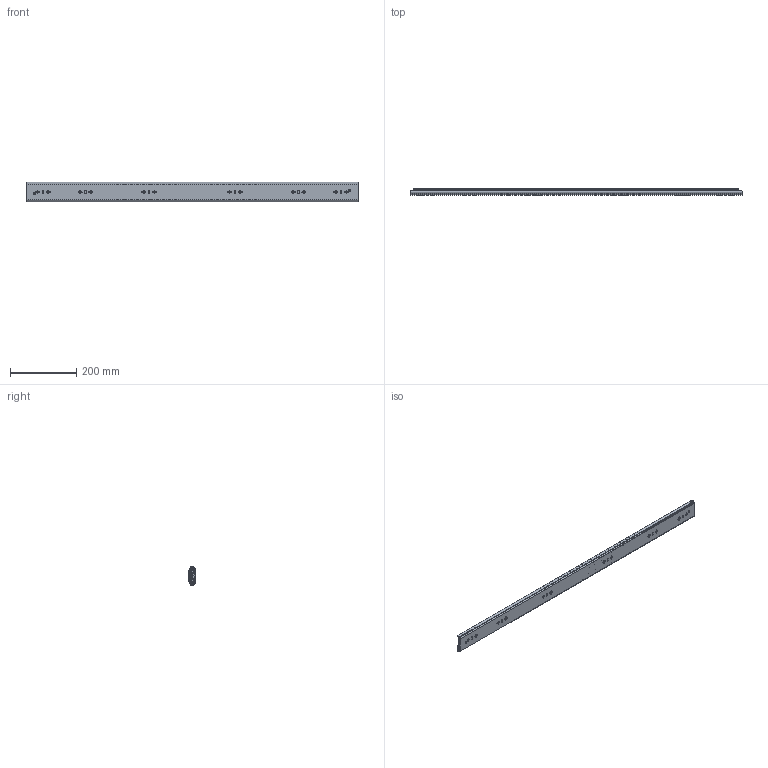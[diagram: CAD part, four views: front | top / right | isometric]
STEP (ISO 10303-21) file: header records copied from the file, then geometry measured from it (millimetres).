
FILE_DESCRIPTION((''),'2;1');
FILE_NAME('1057-C-40_ASM','2025-10-24T',('蔽翩'),(''),'CREO PARAMETRIC BY PTC INC, 2018220','CREO PARAMETRIC BY PTC INC, 2018220','');
FILE_SCHEMA(('CONFIG_CONTROL_DESIGN'));
Products named in the file (20): KP-57-01WEIKE-31__________; MAODING-WAI__________; 1057DAZHUJIA-20GE1__________; 1057ZHUJIADANWEIJIAO123______; 1057-5-6GANZHU1__________; 1057DAZHUJIA-20GE_12__ASM; 1057-C-20-KE___________ASM; KP-57-01ZHONGGUI-36__; PEIJIAN-22__________; ZHUANJIAO112__________; LIUJIAO-DING11__________; 1057-XIAOJIAOLUN40; PEIJIAN-ZHONG___________ASM; 1057XIAOZHUJIA___20___________; 1057XIAOZHUJIA-20GE____________ASM; KP-57-01ZHONGGUI-36___ASM; KP-57-01NEIGUI-241__________; XIN-JIAOGUAN40; KP-57-01NEIGUI-241___________ASM; 1057-C-40_ASM
Assembly tree (162 placements, depth 4):
  1057-C-40_ASM
    1057-C-20-KE___________ASM
      KP-57-01WEIKE-31__________
      MAODING-WAI__________  x2
      1057DAZHUJIA-20GE_12__ASM
        1057DAZHUJIA-20GE1__________
        1057ZHUJIADANWEIJIAO123______  x2
        1057-5-6GANZHU1__________  x68
    KP-57-01ZHONGGUI-36___ASM
      KP-57-01ZHONGGUI-36__
      PEIJIAN-ZHONG___________ASM  x2
        PEIJIAN-22__________
        ZHUANJIAO112__________
        LIUJIAO-DING11__________
        1057-XIAOJIAOLUN40
      MAODING-WAI__________  x2
      1057XIAOZHUJIA-20GE____________ASM
        1057XIAOZHUJIA___20___________
        1057-5-6GANZHU1__________  x68
        1057ZHUJIADANWEIJIAO123______  x2
    KP-57-01NEIGUI-241___________ASM
      KP-57-01NEIGUI-241__________
      XIN-JIAOGUAN40  x2
Bounding box: 1000 x 19.8 x 57.67 mm (x, y, z)
Volume: 428195.5 mm3; surface area: 497856.6 mm2
Topology: 159 solids, 159 shells, 4188 faces, 11658 edges, 7238 vertices
Faces by surface type: plane 1872, cylinder 1702, sphere 278, bspline 122, cone 110, torus 96, extrusion 8
Entity records: 120108 total; most frequent: CARTESIAN_POINT 25324, DIRECTION 20134, ORIENTED_EDGE 19670, EDGE_CURVE 9835, AXIS2_PLACEMENT_3D 6954, VERTEX_POINT 6335, VECTOR 6226, LINE 6222
